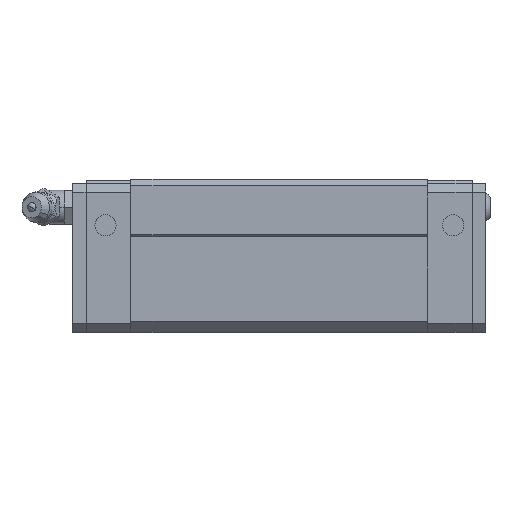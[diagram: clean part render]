
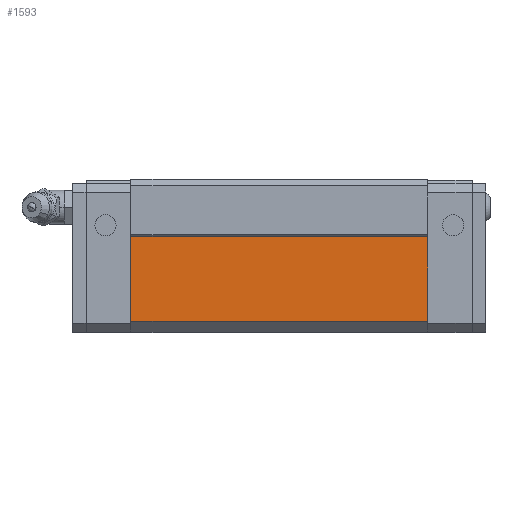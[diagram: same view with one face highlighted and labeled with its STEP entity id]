
A CAD part, top view. The second image highlights one B-rep face of the part: STEP entity #1593.
In plain terms, the highlighted planar face has unit normal (0, 0, 1).
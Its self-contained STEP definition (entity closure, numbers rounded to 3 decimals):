
#102 = LINE ( 'NONE', #11699, #9308 ) ;
#480 = CARTESIAN_POINT ( 'NONE',  ( -35., -17.5, 29.5 ) ) ;
#704 = DIRECTION ( 'NONE',  ( 0., -1., 0. ) ) ;
#987 = CARTESIAN_POINT ( 'NONE',  ( -35., 2.5, 29.5 ) ) ;
#1593 = ADVANCED_FACE ( 'NONE', ( #8028 ), #3439, .T. ) ;
#1842 = ORIENTED_EDGE ( 'NONE', *, *, #7710, .T. ) ;
#1894 = DIRECTION ( 'NONE',  ( -1., 0., 0. ) ) ;
#2512 = DIRECTION ( 'NONE',  ( 0., -1., 0. ) ) ;
#2698 = VERTEX_POINT ( 'NONE', #5398 ) ;
#2815 = DIRECTION ( 'NONE',  ( 1., 0., 0. ) ) ;
#3175 = CARTESIAN_POINT ( 'NONE',  ( 35., 2.5, 29.5 ) ) ;
#3225 = VECTOR ( 'NONE', #704, 1000. ) ;
#3439 = PLANE ( 'NONE',  #12471 ) ;
#4832 = CARTESIAN_POINT ( 'NONE',  ( -35., -17.5, 29.5 ) ) ;
#5398 = CARTESIAN_POINT ( 'NONE',  ( 35., 2.5, 29.5 ) ) ;
#5419 = EDGE_LOOP ( 'NONE', ( #1842, #12507, #12650, #13966 ) ) ;
#5733 = VERTEX_POINT ( 'NONE', #9110 ) ;
#6458 = VECTOR ( 'NONE', #1894, 1000. ) ;
#6760 = CARTESIAN_POINT ( 'NONE',  ( -35., 0.5, 29.5 ) ) ;
#7546 = CARTESIAN_POINT ( 'NONE',  ( -35., -2.5, 29.5 ) ) ;
#7710 = EDGE_CURVE ( 'NONE', #8227, #11350, #8677, .T. ) ;
#8028 = FACE_OUTER_BOUND ( 'NONE', #5419, .T. ) ;
#8227 = VERTEX_POINT ( 'NONE', #987 ) ;
#8453 = LINE ( 'NONE', #480, #10533 ) ;
#8677 = LINE ( 'NONE', #7546, #3225 ) ;
#9110 = CARTESIAN_POINT ( 'NONE',  ( 35., -17.5, 29.5 ) ) ;
#9202 = EDGE_CURVE ( 'NONE', #2698, #5733, #102, .T. ) ;
#9308 = VECTOR ( 'NONE', #2512, 1000. ) ;
#10533 = VECTOR ( 'NONE', #2815, 1000. ) ;
#10873 = EDGE_CURVE ( 'NONE', #2698, #8227, #12353, .T. ) ;
#11349 = DIRECTION ( 'NONE',  ( 0., 0., 1. ) ) ;
#11350 = VERTEX_POINT ( 'NONE', #4832 ) ;
#11690 = EDGE_CURVE ( 'NONE', #11350, #5733, #8453, .T. ) ;
#11699 = CARTESIAN_POINT ( 'NONE',  ( 35., -2.5, 29.5 ) ) ;
#12353 = LINE ( 'NONE', #3175, #6458 ) ;
#12471 = AXIS2_PLACEMENT_3D ( 'NONE', #6760, #11349, #12622 ) ;
#12507 = ORIENTED_EDGE ( 'NONE', *, *, #11690, .T. ) ;
#12622 = DIRECTION ( 'NONE',  ( 0., -1., 0. ) ) ;
#12650 = ORIENTED_EDGE ( 'NONE', *, *, #9202, .F. ) ;
#13966 = ORIENTED_EDGE ( 'NONE', *, *, #10873, .T. ) ;
